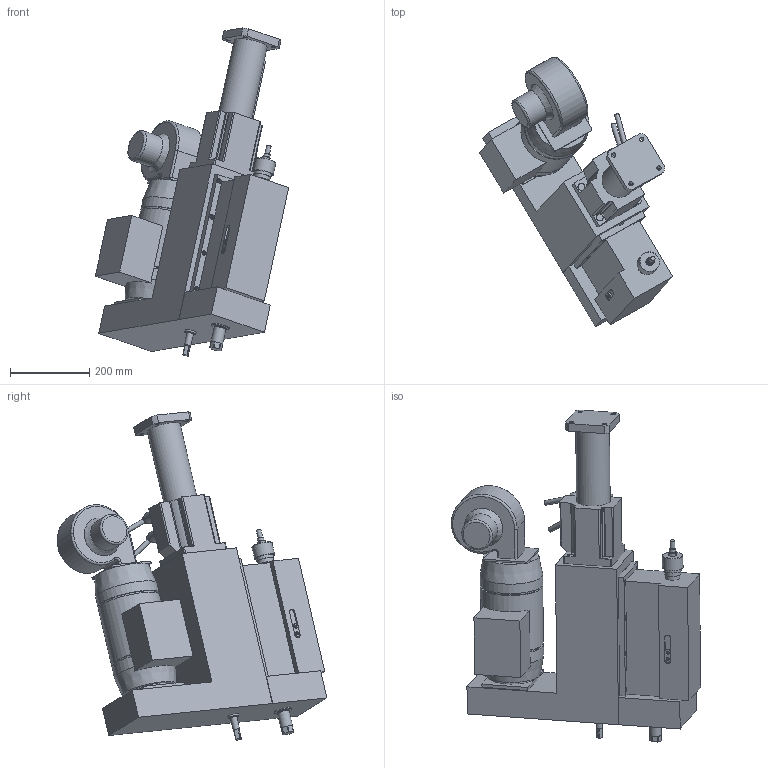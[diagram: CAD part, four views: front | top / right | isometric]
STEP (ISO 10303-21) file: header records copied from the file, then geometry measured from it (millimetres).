
FILE_DESCRIPTION((''),'2;1');
FILE_NAME('C:\VaultWork\Zeichnungen\Maßblätter\Gewindemaschinen\GE6-7\GE6-7-02 Maßblatt Tischmaschine GE6-7 höhenverstellbar U-Laterne.stp','2009-08-19T14:13:26',('Test'),(''),'Autodesk Inventor 2008','Autodesk Inventor 2008','');
FILE_SCHEMA(('AUTOMOTIVE_DESIGN { 1 0 10303 214 1 1 1 1 }'));
Length unit declared in the file: millimetre
Products named in the file (1): GE6-7-02 Maßblatt Tischmaschine GE6-7 höhenverstellbar U-Laterne
Bounding box: 488 x 680.63 x 828.72 mm (x, y, z)
Volume: 34579021.2 mm3; surface area: 1210017.8 mm2
Topology: 1 solids, 5 shells, 347 faces, 826 edges, 536 vertices
Faces by surface type: plane 194, cylinder 82, bspline 50, cone 12, torus 9
Full cylindrical faces by diameter (mm): 7 x2, 11.5 x1, 12 x2, 14 x1, 16 x2, 19 x2, 20 x1, 25 x2, 26 x1, 28 x3, 30 x2, 35 x1, 40 x1, 44 x1, 45 x1, 52 x1, 80 x1, 85 x1, 120 x1, 150 x1, 158 x2
Entity records: 10420 total; most frequent: CARTESIAN_POINT 2423, DIRECTION 1576, ORIENTED_EDGE 1440, EDGE_CURVE 720, AXIS2_PLACEMENT_3D 576, VERTEX_POINT 511, EDGE_LOOP 487, VECTOR 424
